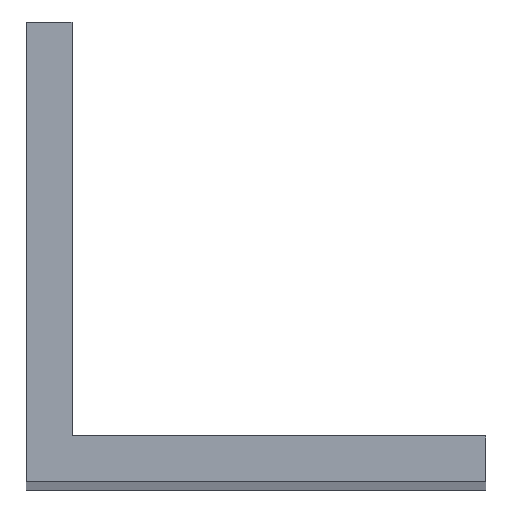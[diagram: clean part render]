
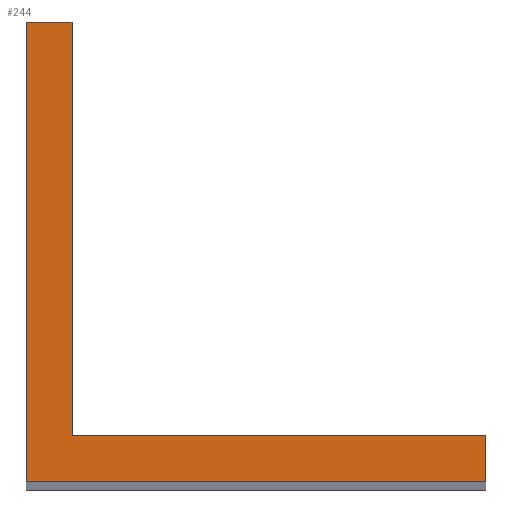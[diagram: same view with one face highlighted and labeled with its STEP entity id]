
A CAD part, top view. The second image highlights one B-rep face of the part: STEP entity #244.
In plain terms, the highlighted planar face has unit normal (0, 0, 1).
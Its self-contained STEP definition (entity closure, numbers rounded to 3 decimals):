
#1 = VERTEX_POINT ( 'NONE', #88 ) ;
#12 = VERTEX_POINT ( 'NONE', #96 ) ;
#22 = VERTEX_POINT ( 'NONE', #119 ) ;
#36 = EDGE_CURVE ( 'NONE', #40, #281, #140, .T. ) ;
#38 = EDGE_CURVE ( 'NONE', #46, #1, #148, .T. ) ;
#40 = VERTEX_POINT ( 'NONE', #155 ) ;
#46 = VERTEX_POINT ( 'NONE', #157 ) ;
#51 = EDGE_CURVE ( 'NONE', #281, #46, #139, .T. ) ;
#54 = EDGE_CURVE ( 'NONE', #22, #12, #165, .T. ) ;
#56 = ORIENTED_EDGE ( 'NONE', *, *, #51, .T. ) ;
#63 = ORIENTED_EDGE ( 'NONE', *, *, #36, .T. ) ;
#65 = ORIENTED_EDGE ( 'NONE', *, *, #54, .T. ) ;
#66 = ORIENTED_EDGE ( 'NONE', *, *, #73, .T. ) ;
#71 = ORIENTED_EDGE ( 'NONE', *, *, #106, .T. ) ;
#73 = EDGE_CURVE ( 'NONE', #1, #22, #184, .T. ) ;
#80 = CARTESIAN_POINT ( 'NONE',  ( 27., -3., 150. ) ) ;
#81 = EDGE_LOOP ( 'NONE', ( #292, #66, #65, #71, #63, #56 ) ) ;
#88 = CARTESIAN_POINT ( 'NONE',  ( 0., 0., 150. ) ) ;
#96 = CARTESIAN_POINT ( 'NONE',  ( -3., 27., 150. ) ) ;
#106 = EDGE_CURVE ( 'NONE', #12, #40, #190, .T. ) ;
#119 = CARTESIAN_POINT ( 'NONE',  ( 0., 27., 150. ) ) ;
#139 = LINE ( 'NONE', #158, #174 ) ;
#140 = LINE ( 'NONE', #142, #171 ) ;
#142 = CARTESIAN_POINT ( 'NONE',  ( -3., -3., 150. ) ) ;
#147 = DIRECTION ( 'NONE',  ( 1., 0., 0. ) ) ;
#148 = LINE ( 'NONE', #149, #179 ) ;
#149 = CARTESIAN_POINT ( 'NONE',  ( 27., 0., 150. ) ) ;
#154 = DIRECTION ( 'NONE',  ( -1., 0., 0. ) ) ;
#155 = CARTESIAN_POINT ( 'NONE',  ( -3., -3., 150. ) ) ;
#157 = CARTESIAN_POINT ( 'NONE',  ( 27., 0., 150. ) ) ;
#158 = CARTESIAN_POINT ( 'NONE',  ( 27., -3., 150. ) ) ;
#160 = DIRECTION ( 'NONE',  ( 0., 1., 0. ) ) ;
#165 = LINE ( 'NONE', #166, #218 ) ;
#166 = CARTESIAN_POINT ( 'NONE',  ( 0., 27., 150. ) ) ;
#167 = DIRECTION ( 'NONE',  ( -1., 0., 0. ) ) ;
#171 = VECTOR ( 'NONE', #147, 1000. ) ;
#174 = VECTOR ( 'NONE', #160, 1000. ) ;
#179 = VECTOR ( 'NONE', #154, 1000. ) ;
#184 = LINE ( 'NONE', #187, #269 ) ;
#187 = CARTESIAN_POINT ( 'NONE',  ( 0., 0., 150. ) ) ;
#188 = DIRECTION ( 'NONE',  ( 0., 1., 0. ) ) ;
#190 = LINE ( 'NONE', #192, #239 ) ;
#192 = CARTESIAN_POINT ( 'NONE',  ( -3., 27., 150. ) ) ;
#193 = DIRECTION ( 'NONE',  ( 0., -1., 0. ) ) ;
#203 = PLANE ( 'NONE',  #225 ) ;
#205 = FACE_OUTER_BOUND ( 'NONE', #81, .T. ) ;
#206 = CARTESIAN_POINT ( 'NONE',  ( 0., 0., 150. ) ) ;
#207 = DIRECTION ( 'NONE',  ( 0., 0., -1. ) ) ;
#209 = DIRECTION ( 'NONE',  ( -1., 0., 0. ) ) ;
#218 = VECTOR ( 'NONE', #167, 1000. ) ;
#225 = AXIS2_PLACEMENT_3D ( 'NONE', #206, #207, #209 ) ;
#239 = VECTOR ( 'NONE', #193, 1000. ) ;
#244 = ADVANCED_FACE ( 'NONE', ( #205 ), #203, .F. ) ;
#269 = VECTOR ( 'NONE', #188, 1000. ) ;
#281 = VERTEX_POINT ( 'NONE', #80 ) ;
#292 = ORIENTED_EDGE ( 'NONE', *, *, #38, .T. ) ;
